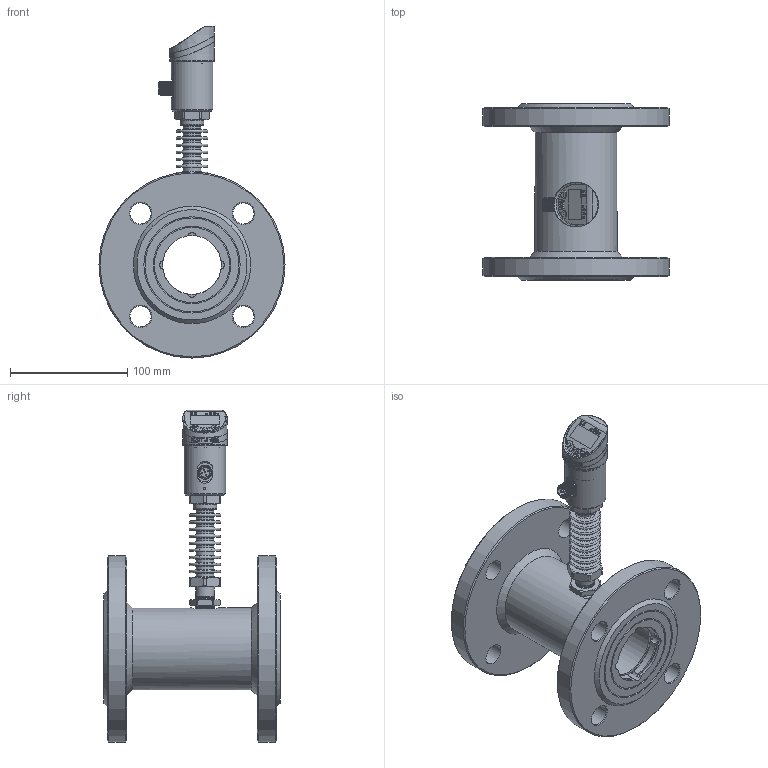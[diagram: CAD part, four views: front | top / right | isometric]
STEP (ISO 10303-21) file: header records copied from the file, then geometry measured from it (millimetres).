
FILE_DESCRIPTION( (''), '2;1');
FILE_NAME( 'QTKE_DN50_flange_high-temp.step', '2024-10-14T15:50:37+08:00', (''), (''), '', '', '');
FILE_SCHEMA (('AUTOMOTIVE_DESIGN { 1 0 10303 214 3 1 1 1 }'));
Length unit declared in the file: millimetre
Products named in the file (1): QTKE DN50_flange_high-temp
Bounding box: 158.5 x 150 x 282.75 mm (x, y, z)
Volume: 833707.6 mm3; surface area: 180681.6 mm2
Topology: 5 solids, 5 shells, 1080 faces, 2774 edges, 1803 vertices
Faces by surface type: plane 433, cylinder 218, extrusion 160, cone 123, torus 64, bspline 61, sphere 21
Full cylindrical faces by diameter (mm): 1.689 x1, 2 x1, 2.7 x6, 3.5 x5, 12 x1, 13 x1, 15 x10, 15.9 x1, 16.5 x1, 18 x8, 20 x1, 23 x3, 26 x5, 31.7 x1, 32 x1, 34 x1, 34.2 x1, 35.5 x2, 50 x1, 70 x1, 158.5 x2
Entity records: 46896 total; most frequent: CARTESIAN_POINT 17830, ORIENTED_EDGE 5106, DIRECTION 4638, EDGE_CURVE 2553, VERTEX_POINT 1741, AXIS2_PLACEMENT_3D 1706, EDGE_LOOP 1364, VECTOR 1226
